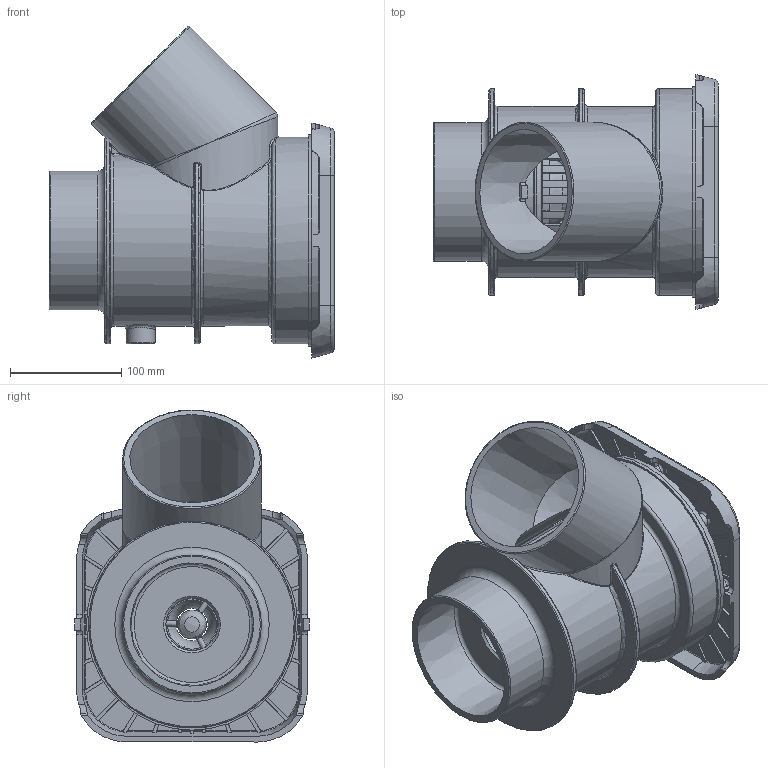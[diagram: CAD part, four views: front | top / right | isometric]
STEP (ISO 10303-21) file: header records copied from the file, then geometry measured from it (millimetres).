
FILE_DESCRIPTION(/* description */ (''),/* implementation_level */ '2;1');
FILE_NAME(/* name */ '\\USERS01\Users\b.davidson\My Documents\BaduStream II\3D\BaduStream II.stp',/* time_stamp */ '2015-04-22T10:59:06-04:00',/* author */ ('b.davidson'),/* organization */ (''),/* preprocessor_version */ 'ST-DEVELOPER v15.6',/* originating_system */ 'Autodesk Inventor 2015',/* authorisation */ '');
FILE_SCHEMA (('CONFIG_CONTROL_DESIGN'));
Products named in the file (1): Part1
Bounding box: 256.54 x 211.38 x 298.66 mm (x, y, z)
Volume: 2099830.8 mm3; surface area: 765741.7 mm2
Topology: 5 solids, 48 shells, 2425 faces, 6193 edges, 3800 vertices
Faces by surface type: plane 919, cylinder 603, torus 358, bspline 245, cone 235, sphere 65
Full cylindrical faces by diameter (mm): 4.8 x20, 5.387 x12, 5.5 x6, 6 x12, 6.2 x18, 6.5 x12, 7 x10, 7.5 x12, 8 x4, 10 x1, 10.3 x6, 11.3 x12, 12 x2, 13 x8, 15 x1, 16.2 x1, 19.7 x1, 20 x1, 26 x2, 32 x1, 39 x3, 41 x1, 41.3 x1, 43 x2, 45 x4, 46 x1, 47 x1, 50 x3, 51 x1, 55 x1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
Entity records: 85724 total; most frequent: CARTESIAN_POINT 28529, ORIENTED_EDGE 11502, DIRECTION 11080, EDGE_CURVE 5745, AXIS2_PLACEMENT_3D 4528, VERTEX_POINT 3705, EDGE_LOOP 2859, STYLED_ITEM 2424
